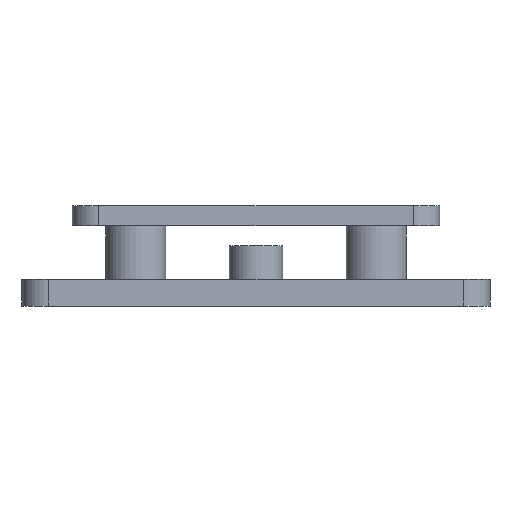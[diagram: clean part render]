
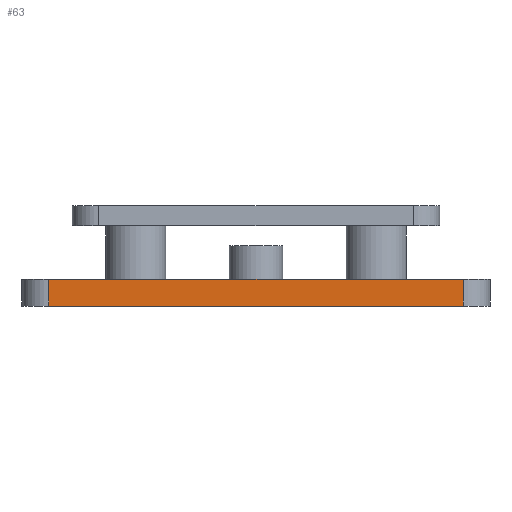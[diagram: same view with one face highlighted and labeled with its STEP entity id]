
A CAD part, left-side view. The second image highlights one B-rep face of the part: STEP entity #63.
In plain terms, the highlighted planar face has unit normal (-1, 0, 0).
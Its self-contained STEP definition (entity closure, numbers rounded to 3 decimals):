
#63 = ADVANCED_FACE('',(#64),#78,.F.);
#64 = FACE_BOUND('',#65,.F.);
#65 = EDGE_LOOP('',(#66,#101,#129,#157));
#66 = ORIENTED_EDGE('',*,*,#67,.F.);
#67 = EDGE_CURVE('',#68,#70,#72,.T.);
#68 = VERTEX_POINT('',#69);
#69 = CARTESIAN_POINT('',(-45.,-31.,4.));
#70 = VERTEX_POINT('',#71);
#71 = CARTESIAN_POINT('',(-45.,31.,4.));
#72 = SURFACE_CURVE('',#73,(#77,#89),.PCURVE_S1.);
#73 = LINE('',#74,#75);
#74 = CARTESIAN_POINT('',(-45.,-35.,4.));
#75 = VECTOR('',#76,1.);
#76 = DIRECTION('',(0.,1.,0.));
#77 = PCURVE('',#78,#83);
#78 = PLANE('',#79);
#79 = AXIS2_PLACEMENT_3D('',#80,#81,#82);
#80 = CARTESIAN_POINT('',(-45.,-35.,0.));
#81 = DIRECTION('',(1.,0.,0.));
#82 = DIRECTION('',(0.,0.,1.));
#83 = DEFINITIONAL_REPRESENTATION('',(#84),#88);
#84 = LINE('',#85,#86);
#85 = CARTESIAN_POINT('',(4.,0.));
#86 = VECTOR('',#87,1.);
#87 = DIRECTION('',(0.,-1.));
#88 = ( GEOMETRIC_REPRESENTATION_CONTEXT(2) 
PARAMETRIC_REPRESENTATION_CONTEXT() REPRESENTATION_CONTEXT('2D SPACE',''
  ) );
#89 = PCURVE('',#90,#95);
#90 = PLANE('',#91);
#91 = AXIS2_PLACEMENT_3D('',#92,#93,#94);
#92 = CARTESIAN_POINT('',(-45.,-35.,4.));
#93 = DIRECTION('',(0.,0.,1.));
#94 = DIRECTION('',(1.,0.,0.));
#95 = DEFINITIONAL_REPRESENTATION('',(#96),#100);
#96 = LINE('',#97,#98);
#97 = CARTESIAN_POINT('',(0.,0.));
#98 = VECTOR('',#99,1.);
#99 = DIRECTION('',(0.,1.));
#100 = ( GEOMETRIC_REPRESENTATION_CONTEXT(2) 
PARAMETRIC_REPRESENTATION_CONTEXT() REPRESENTATION_CONTEXT('2D SPACE',''
  ) );
#101 = ORIENTED_EDGE('',*,*,#102,.F.);
#102 = EDGE_CURVE('',#103,#68,#105,.T.);
#103 = VERTEX_POINT('',#104);
#104 = CARTESIAN_POINT('',(-45.,-31.,0.));
#105 = SURFACE_CURVE('',#106,(#110,#117),.PCURVE_S1.);
#106 = LINE('',#107,#108);
#107 = CARTESIAN_POINT('',(-45.,-31.,0.));
#108 = VECTOR('',#109,1.);
#109 = DIRECTION('',(0.,0.,1.));
#110 = PCURVE('',#78,#111);
#111 = DEFINITIONAL_REPRESENTATION('',(#112),#116);
#112 = LINE('',#113,#114);
#113 = CARTESIAN_POINT('',(0.,-4.));
#114 = VECTOR('',#115,1.);
#115 = DIRECTION('',(1.,0.));
#116 = ( GEOMETRIC_REPRESENTATION_CONTEXT(2) 
PARAMETRIC_REPRESENTATION_CONTEXT() REPRESENTATION_CONTEXT('2D SPACE',''
  ) );
#117 = PCURVE('',#118,#123);
#118 = CYLINDRICAL_SURFACE('',#119,4.);
#119 = AXIS2_PLACEMENT_3D('',#120,#121,#122);
#120 = CARTESIAN_POINT('',(-41.,-31.,0.));
#121 = DIRECTION('',(0.,0.,1.));
#122 = DIRECTION('',(-1.,-0.,0.));
#123 = DEFINITIONAL_REPRESENTATION('',(#124),#128);
#124 = LINE('',#125,#126);
#125 = CARTESIAN_POINT('',(0.,0.));
#126 = VECTOR('',#127,1.);
#127 = DIRECTION('',(0.,1.));
#128 = ( GEOMETRIC_REPRESENTATION_CONTEXT(2) 
PARAMETRIC_REPRESENTATION_CONTEXT() REPRESENTATION_CONTEXT('2D SPACE',''
  ) );
#129 = ORIENTED_EDGE('',*,*,#130,.T.);
#130 = EDGE_CURVE('',#103,#131,#133,.T.);
#131 = VERTEX_POINT('',#132);
#132 = CARTESIAN_POINT('',(-45.,31.,0.));
#133 = SURFACE_CURVE('',#134,(#138,#145),.PCURVE_S1.);
#134 = LINE('',#135,#136);
#135 = CARTESIAN_POINT('',(-45.,-35.,0.));
#136 = VECTOR('',#137,1.);
#137 = DIRECTION('',(0.,1.,0.));
#138 = PCURVE('',#78,#139);
#139 = DEFINITIONAL_REPRESENTATION('',(#140),#144);
#140 = LINE('',#141,#142);
#141 = CARTESIAN_POINT('',(0.,0.));
#142 = VECTOR('',#143,1.);
#143 = DIRECTION('',(0.,-1.));
#144 = ( GEOMETRIC_REPRESENTATION_CONTEXT(2) 
PARAMETRIC_REPRESENTATION_CONTEXT() REPRESENTATION_CONTEXT('2D SPACE',''
  ) );
#145 = PCURVE('',#146,#151);
#146 = PLANE('',#147);
#147 = AXIS2_PLACEMENT_3D('',#148,#149,#150);
#148 = CARTESIAN_POINT('',(-45.,-35.,0.));
#149 = DIRECTION('',(0.,0.,1.));
#150 = DIRECTION('',(1.,0.,0.));
#151 = DEFINITIONAL_REPRESENTATION('',(#152),#156);
#152 = LINE('',#153,#154);
#153 = CARTESIAN_POINT('',(0.,0.));
#154 = VECTOR('',#155,1.);
#155 = DIRECTION('',(0.,1.));
#156 = ( GEOMETRIC_REPRESENTATION_CONTEXT(2) 
PARAMETRIC_REPRESENTATION_CONTEXT() REPRESENTATION_CONTEXT('2D SPACE',''
  ) );
#157 = ORIENTED_EDGE('',*,*,#158,.T.);
#158 = EDGE_CURVE('',#131,#70,#159,.T.);
#159 = SURFACE_CURVE('',#160,(#164,#171),.PCURVE_S1.);
#160 = LINE('',#161,#162);
#161 = CARTESIAN_POINT('',(-45.,31.,0.));
#162 = VECTOR('',#163,1.);
#163 = DIRECTION('',(0.,0.,1.));
#164 = PCURVE('',#78,#165);
#165 = DEFINITIONAL_REPRESENTATION('',(#166),#170);
#166 = LINE('',#167,#168);
#167 = CARTESIAN_POINT('',(0.,-66.));
#168 = VECTOR('',#169,1.);
#169 = DIRECTION('',(1.,0.));
#170 = ( GEOMETRIC_REPRESENTATION_CONTEXT(2) 
PARAMETRIC_REPRESENTATION_CONTEXT() REPRESENTATION_CONTEXT('2D SPACE',''
  ) );
#171 = PCURVE('',#172,#177);
#172 = CYLINDRICAL_SURFACE('',#173,4.);
#173 = AXIS2_PLACEMENT_3D('',#174,#175,#176);
#174 = CARTESIAN_POINT('',(-41.,31.,0.));
#175 = DIRECTION('',(0.,0.,1.));
#176 = DIRECTION('',(-1.,-0.,0.));
#177 = DEFINITIONAL_REPRESENTATION('',(#178),#182);
#178 = LINE('',#179,#180);
#179 = CARTESIAN_POINT('',(-0.,0.));
#180 = VECTOR('',#181,1.);
#181 = DIRECTION('',(-0.,1.));
#182 = ( GEOMETRIC_REPRESENTATION_CONTEXT(2) 
PARAMETRIC_REPRESENTATION_CONTEXT() REPRESENTATION_CONTEXT('2D SPACE',''
  ) );
